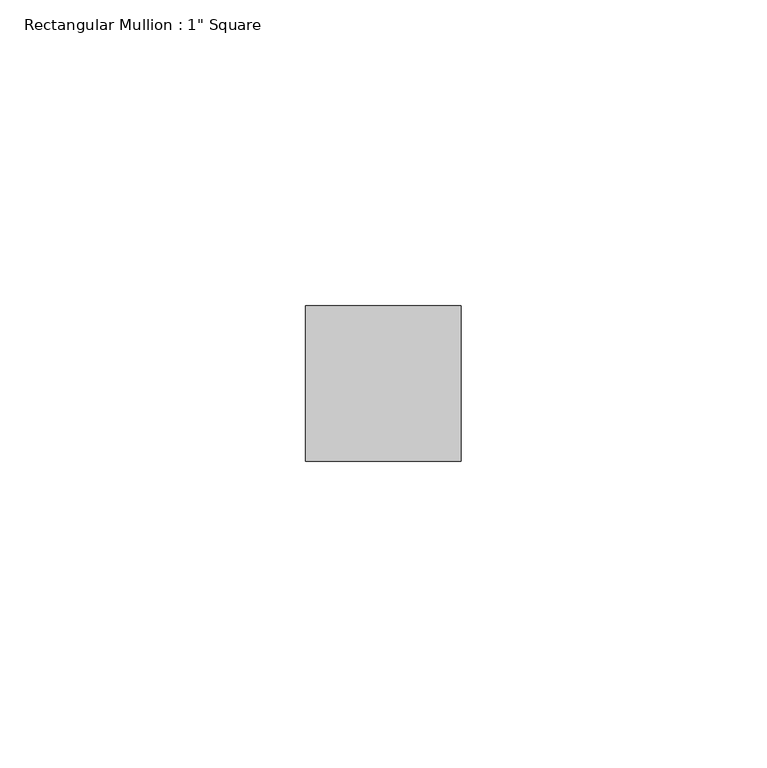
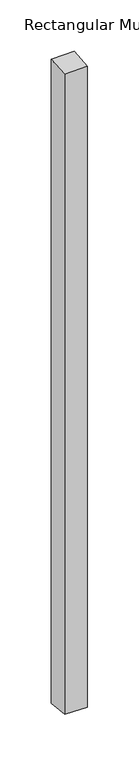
"""IFC4 building model written with IfcOpenShell, lengths in millimetres: member geometry."""

from ifc_helpers import new_model, si_unit, origin, place, context, project, spatial, faceted_brep, source, transform, mapped, element, save


def member_acb6b9ec(model_context):
    return source(origin(), model_context, "Body", "Brep", [
        faceted_brep([(-25.4, 12.7, 0.5770294), (0.0, 12.7, 1.0368437), (0.0, 12.7, -763.0368437), (-25.4, 12.7, -762.5770294), (-25.4, -12.7, -1.4966579), (-25.4, -12.7, -760.5033421), (0.0, -12.7, -1.0368437), (0.0, -12.7, -760.9631563)], [[[0, 1, 2, 3]], [[4, 0, 3, 5]], [[6, 4, 5, 7]], [[1, 6, 7, 2]], [[1, 0, 4, 6]], [[2, 7, 5, 3]]]),
    ])


if __name__ == "__main__":
    model = new_model("IFC4")
    model_context = context("Model", 3, world=origin())
    ifc_project = project(units=[si_unit("LENGTHUNIT", "METRE", prefix="MILLI")], contexts=[model_context])
    site = spatial("IfcSite", under=ifc_project)
    building = spatial("IfcBuilding", under=site)
    placement = place(None, origin())
    member_shape = member_acb6b9ec(model_context)
    element("IfcMember", 1, ObjectType="Rectangular Mullion : 1\" Square", at=placement, inside=building, context=model_context, shape_type="MappedRepresentation", body=[
        mapped(member_shape, transform((0.0, 0.0, 0.0), x_axis=(1.0, 0.0, 0.0), y_axis=(0.0, 1.0, 0.0), z_axis=(0.0, 0.0, 1.0))),
    ])
    save(model, "model.ifc")
